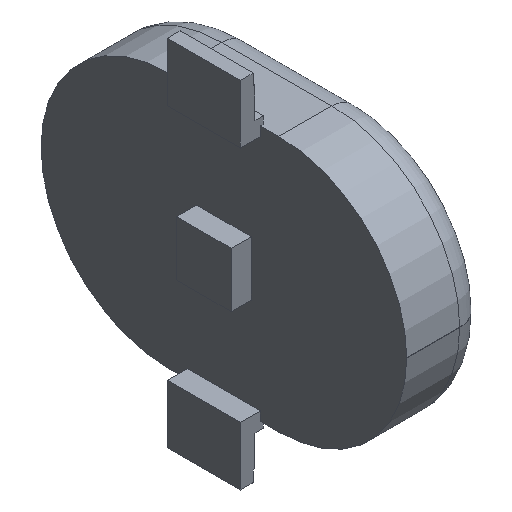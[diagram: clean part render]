
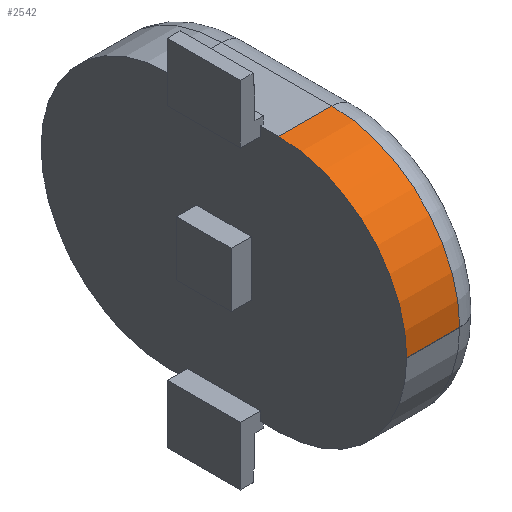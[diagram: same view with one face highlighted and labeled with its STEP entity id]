
A CAD part, isometric view. The second image highlights one B-rep face of the part: STEP entity #2542.
In plain terms, the highlighted cylindrical face has radius 6.99 mm (diameter 13.98 mm), a partial arc.
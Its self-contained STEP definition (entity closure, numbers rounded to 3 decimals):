
#859 = TOROIDAL_SURFACE('',#860,5.49,1.5);
#860 = AXIS2_PLACEMENT_3D('',#861,#862,#863);
#861 = CARTESIAN_POINT('',(44.9,14.99,0.01));
#862 = DIRECTION('',(1.,0.,0.));
#863 = DIRECTION('',(0.,0.,-1.));
#1948 = VERTEX_POINT('',#1949);
#1949 = CARTESIAN_POINT('',(44.9,14.99,7.));
#1963 = PLANE('',#1964);
#1964 = AXIS2_PLACEMENT_3D('',#1965,#1966,#1967);
#1965 = CARTESIAN_POINT('',(42.,21.01,7.));
#1966 = DIRECTION('',(0.,0.,1.));
#1967 = DIRECTION('',(0.,-1.,0.));
#2002 = VERTEX_POINT('',#2003);
#2003 = CARTESIAN_POINT('',(44.9,8.,0.01));
#2027 = EDGE_CURVE('',#1948,#2002,#2028,.T.);
#2028 = SURFACE_CURVE('',#2029,(#2034,#2041),.PCURVE_S1.);
#2029 = CIRCLE('',#2030,6.99);
#2030 = AXIS2_PLACEMENT_3D('',#2031,#2032,#2033);
#2031 = CARTESIAN_POINT('',(44.9,14.99,0.01));
#2032 = DIRECTION('',(1.,0.,0.));
#2033 = DIRECTION('',(0.,-0.707,0.707));
#2034 = PCURVE('',#859,#2035);
#2035 = DEFINITIONAL_REPRESENTATION('',(#2036),#2040);
#2036 = LINE('',#2037,#2038);
#2037 = CARTESIAN_POINT('',(-2.356,0.));
#2038 = VECTOR('',#2039,1.);
#2039 = DIRECTION('',(1.,0.));
#2040 = ( GEOMETRIC_REPRESENTATION_CONTEXT(2) 
PARAMETRIC_REPRESENTATION_CONTEXT() REPRESENTATION_CONTEXT('2D SPACE',''
  ) );
#2041 = PCURVE('',#2042,#2047);
#2042 = CYLINDRICAL_SURFACE('',#2043,6.99);
#2043 = AXIS2_PLACEMENT_3D('',#2044,#2045,#2046);
#2044 = CARTESIAN_POINT('',(42.,14.99,0.01));
#2045 = DIRECTION('',(1.,0.,0.));
#2046 = DIRECTION('',(0.,0.,1.));
#2047 = DEFINITIONAL_REPRESENTATION('',(#2048),#2052);
#2048 = LINE('',#2049,#2050);
#2049 = CARTESIAN_POINT('',(-5.498,2.9));
#2050 = VECTOR('',#2051,1.);
#2051 = DIRECTION('',(1.,0.));
#2052 = ( GEOMETRIC_REPRESENTATION_CONTEXT(2) 
PARAMETRIC_REPRESENTATION_CONTEXT() REPRESENTATION_CONTEXT('2D SPACE',''
  ) );
#2097 = PLANE('',#2098);
#2098 = AXIS2_PLACEMENT_3D('',#2099,#2100,#2101);
#2099 = CARTESIAN_POINT('',(42.,8.,0.01));
#2100 = DIRECTION('',(0.,-1.,0.));
#2101 = DIRECTION('',(0.,0.,-1.));
#2407 = PLANE('',#2408);
#2408 = AXIS2_PLACEMENT_3D('',#2409,#2410,#2411);
#2409 = CARTESIAN_POINT('',(42.,18.,0.));
#2410 = DIRECTION('',(1.,0.,0.));
#2411 = DIRECTION('',(0.,0.,-1.));
#2500 = VERTEX_POINT('',#2501);
#2501 = CARTESIAN_POINT('',(42.,14.99,7.));
#2522 = EDGE_CURVE('',#2500,#1948,#2523,.T.);
#2523 = SURFACE_CURVE('',#2524,(#2528,#2535),.PCURVE_S1.);
#2524 = LINE('',#2525,#2526);
#2525 = CARTESIAN_POINT('',(42.,14.99,7.));
#2526 = VECTOR('',#2527,1.);
#2527 = DIRECTION('',(1.,0.,0.));
#2528 = PCURVE('',#1963,#2529);
#2529 = DEFINITIONAL_REPRESENTATION('',(#2530),#2534);
#2530 = LINE('',#2531,#2532);
#2531 = CARTESIAN_POINT('',(6.02,0.));
#2532 = VECTOR('',#2533,1.);
#2533 = DIRECTION('',(0.,1.));
#2534 = ( GEOMETRIC_REPRESENTATION_CONTEXT(2) 
PARAMETRIC_REPRESENTATION_CONTEXT() REPRESENTATION_CONTEXT('2D SPACE',''
  ) );
#2535 = PCURVE('',#2042,#2536);
#2536 = DEFINITIONAL_REPRESENTATION('',(#2537),#2541);
#2537 = LINE('',#2538,#2539);
#2538 = CARTESIAN_POINT('',(0.,0.));
#2539 = VECTOR('',#2540,1.);
#2540 = DIRECTION('',(0.,1.));
#2541 = ( GEOMETRIC_REPRESENTATION_CONTEXT(2) 
PARAMETRIC_REPRESENTATION_CONTEXT() REPRESENTATION_CONTEXT('2D SPACE',''
  ) );
#2542 = ADVANCED_FACE('',(#2543),#2042,.T.);
#2543 = FACE_BOUND('',#2544,.T.);
#2544 = EDGE_LOOP('',(#2545,#2546,#2547,#2571));
#2545 = ORIENTED_EDGE('',*,*,#2027,.F.);
#2546 = ORIENTED_EDGE('',*,*,#2522,.F.);
#2547 = ORIENTED_EDGE('',*,*,#2548,.T.);
#2548 = EDGE_CURVE('',#2500,#2549,#2551,.T.);
#2549 = VERTEX_POINT('',#2550);
#2550 = CARTESIAN_POINT('',(42.,8.,0.01));
#2551 = SURFACE_CURVE('',#2552,(#2557,#2564),.PCURVE_S1.);
#2552 = CIRCLE('',#2553,6.99);
#2553 = AXIS2_PLACEMENT_3D('',#2554,#2555,#2556);
#2554 = CARTESIAN_POINT('',(42.,14.99,0.01));
#2555 = DIRECTION('',(1.,0.,-0.));
#2556 = DIRECTION('',(0.,0.,1.));
#2557 = PCURVE('',#2042,#2558);
#2558 = DEFINITIONAL_REPRESENTATION('',(#2559),#2563);
#2559 = LINE('',#2560,#2561);
#2560 = CARTESIAN_POINT('',(0.,0.));
#2561 = VECTOR('',#2562,1.);
#2562 = DIRECTION('',(1.,0.));
#2563 = ( GEOMETRIC_REPRESENTATION_CONTEXT(2) 
PARAMETRIC_REPRESENTATION_CONTEXT() REPRESENTATION_CONTEXT('2D SPACE',''
  ) );
#2564 = PCURVE('',#2407,#2565);
#2565 = DEFINITIONAL_REPRESENTATION('',(#2566),#2570);
#2566 = CIRCLE('',#2567,6.99);
#2567 = AXIS2_PLACEMENT_2D('',#2568,#2569);
#2568 = CARTESIAN_POINT('',(-0.01,-3.01));
#2569 = DIRECTION('',(-1.,0.));
#2570 = ( GEOMETRIC_REPRESENTATION_CONTEXT(2) 
PARAMETRIC_REPRESENTATION_CONTEXT() REPRESENTATION_CONTEXT('2D SPACE',''
  ) );
#2571 = ORIENTED_EDGE('',*,*,#2572,.T.);
#2572 = EDGE_CURVE('',#2549,#2002,#2573,.T.);
#2573 = SURFACE_CURVE('',#2574,(#2578,#2585),.PCURVE_S1.);
#2574 = LINE('',#2575,#2576);
#2575 = CARTESIAN_POINT('',(42.,8.,0.01));
#2576 = VECTOR('',#2577,1.);
#2577 = DIRECTION('',(1.,0.,0.));
#2578 = PCURVE('',#2042,#2579);
#2579 = DEFINITIONAL_REPRESENTATION('',(#2580),#2584);
#2580 = LINE('',#2581,#2582);
#2581 = CARTESIAN_POINT('',(1.571,0.));
#2582 = VECTOR('',#2583,1.);
#2583 = DIRECTION('',(0.,1.));
#2584 = ( GEOMETRIC_REPRESENTATION_CONTEXT(2) 
PARAMETRIC_REPRESENTATION_CONTEXT() REPRESENTATION_CONTEXT('2D SPACE',''
  ) );
#2585 = PCURVE('',#2097,#2586);
#2586 = DEFINITIONAL_REPRESENTATION('',(#2587),#2591);
#2587 = LINE('',#2588,#2589);
#2588 = CARTESIAN_POINT('',(0.,0.));
#2589 = VECTOR('',#2590,1.);
#2590 = DIRECTION('',(0.,1.));
#2591 = ( GEOMETRIC_REPRESENTATION_CONTEXT(2) 
PARAMETRIC_REPRESENTATION_CONTEXT() REPRESENTATION_CONTEXT('2D SPACE',''
  ) );
